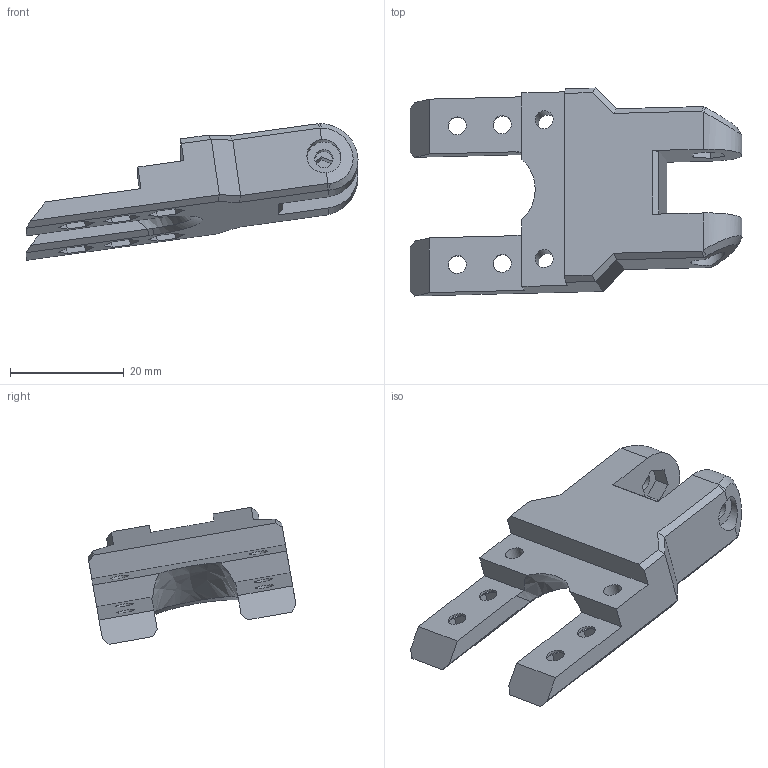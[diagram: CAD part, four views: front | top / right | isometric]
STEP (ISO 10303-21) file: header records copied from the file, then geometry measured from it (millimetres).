
FILE_DESCRIPTION(/* description */ (''),/* implementation_level */ '2;1');
FILE_NAME(/* name */ '4-09-2 Top wishbone.step',/* time_stamp */ '2025-05-10T22:17:11+02:00',/* author */ (''),/* organization */ (''),/* preprocessor_version */ 'ST-DEVELOPER v20.1',/* originating_system */ 'Autodesk Translation Framework v14.4.0.0',/* authorisation */ '');
FILE_SCHEMA (('AUTOMOTIVE_DESIGN { 1 0 10303 214 3 1 1 }'));
Length unit declared in the file: millimetre
Products named in the file (1): Top wishbone
Bounding box: 58.44 x 36.6 x 24.05 mm (x, y, z)
Volume: 10391.4 mm3; surface area: 5188.1 mm2
Topology: 1 solids, 1 shells, 155 faces, 432 edges, 281 vertices
Faces by surface type: plane 127, cylinder 12, bspline 10, cone 6
Full cylindrical faces by diameter (mm): 3.2 x8, 6 x2
Entity records: 5625 total; most frequent: CARTESIAN_POINT 1689, ORIENTED_EDGE 864, DIRECTION 742, EDGE_CURVE 432, LINE 300, VECTOR 300, VERTEX_POINT 281, AXIS2_PLACEMENT_3D 221
